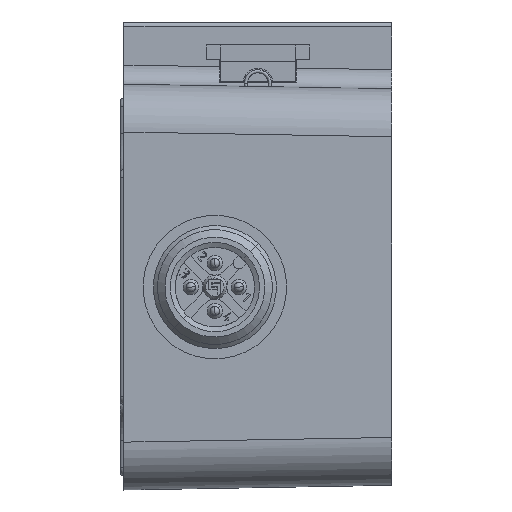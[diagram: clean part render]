
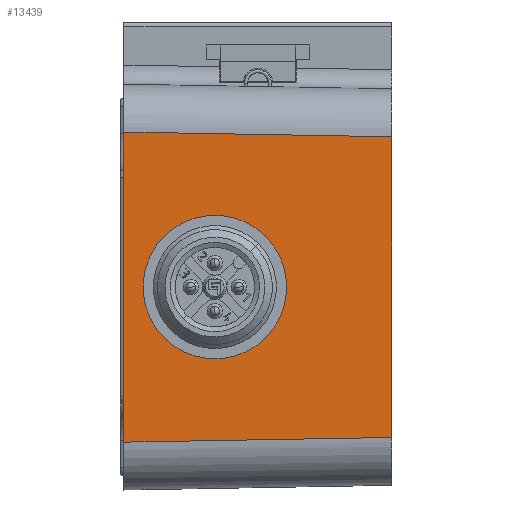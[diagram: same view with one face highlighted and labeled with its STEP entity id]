
A CAD part, left-side view. The second image highlights one B-rep face of the part: STEP entity #13439.
In plain terms, the highlighted planar face has unit normal (-1, 0, 0).
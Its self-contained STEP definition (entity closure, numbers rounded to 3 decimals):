
#503=CARTESIAN_POINT('',(-42.5,-14.,
-15.71));
#1165=CARTESIAN_POINT('',(-42.5,14.,16.199));
#1170=DIRECTION('',(0.,0.,-1.));
#1171=VECTOR('',#1170,32.398);
#1172=CARTESIAN_POINT('',(-42.5,14.,16.199));
#1173=LINE('',#1172,#1171);
#1600=DIRECTION('',(0.,1.,-0.017));
#1601=VECTOR('',#1600,28.004);
#1602=CARTESIAN_POINT('',(-42.5,-14.,
-15.71));
#1603=LINE('',#1602,#1601);
#1607=DIRECTION('',(0.,-1.,-0.017));
#1608=VECTOR('',#1607,28.004);
#1609=CARTESIAN_POINT('',(-42.5,14.,16.199));
#1610=LINE('',#1609,#1608);
#1614=DIRECTION('',(0.,0.,-1.));
#1615=VECTOR('',#1614,31.421);
#1616=CARTESIAN_POINT('',(-42.5,-14.,15.71));
#1617=LINE('',#1616,#1615);
#1621=CARTESIAN_POINT('',(-42.5,4.5,0.));
#1622=DIRECTION('',(-1.,0.,0.));
#1623=DIRECTION('',(0.,-0.571,0.821));
#1624=AXIS2_PLACEMENT_3D('',#1621,#1622,#1623);
#1629=CARTESIAN_POINT('',(-42.5,4.5,0.));
#1630=DIRECTION('',(-1.,0.,0.));
#1631=DIRECTION('',(0.,0.,1.));
#1632=AXIS2_PLACEMENT_3D('',#1629,#1630,#1631);
#1637=CARTESIAN_POINT('',(-42.5,4.5,0.));
#1638=DIRECTION('',(-1.,0.,0.));
#1639=DIRECTION('',(0.,0.,-1.));
#1640=AXIS2_PLACEMENT_3D('',#1637,#1638,#1639);
#1645=CARTESIAN_POINT('',(-42.5,-0.733,5.233));
#1646=DIRECTION('',(1.,0.,0.));
#1647=DIRECTION('',(0.,0.147,-0.989));
#1648=AXIS2_PLACEMENT_3D('',#1645,#1646,#1647);
#11872=VERTEX_POINT('',#503);
#11873=CARTESIAN_POINT('',(-42.5,-14.,15.71));
#11874=VERTEX_POINT('',#11873);
#12051=VERTEX_POINT('',#1165);
#12052=CARTESIAN_POINT('',(-42.5,14.,
-16.199));
#12053=VERTEX_POINT('',#12052);
#12225=CARTESIAN_POINT('',(-42.5,4.5,-6.05));
#12226=CARTESIAN_POINT('',(-42.5,-0.468,3.452));
#12227=VERTEX_POINT('',#12225);
#12228=VERTEX_POINT('',#12226);
#12229=CARTESIAN_POINT('',(-42.5,4.5,6.05));
#12230=VERTEX_POINT('',#12229);
#12231=CARTESIAN_POINT('',(-42.5,1.048,4.968));
#12232=VERTEX_POINT('',#12231);
#13417=CARTESIAN_POINT('',(-42.5,-14.,-21.2));
#13418=DIRECTION('',(-1.,0.,0.));
#13419=DIRECTION('',(0.,0.,1.));
#13420=AXIS2_PLACEMENT_3D('',#13417,#13418,#13419);
#13421=PLANE('',#13420);
#13423=ORIENTED_EDGE('',*,*,#13422,.T.);
#13424=ORIENTED_EDGE('',*,*,#13216,.F.);
#13425=ORIENTED_EDGE('',*,*,#13410,.T.);
#13426=ORIENTED_EDGE('',*,*,#12901,.T.);
#13427=EDGE_LOOP('',(#13423,#13424,#13425,#13426));
#13428=FACE_OUTER_BOUND('',#13427,.F.);
#13430=ORIENTED_EDGE('',*,*,#13429,.T.);
#13432=ORIENTED_EDGE('',*,*,#13431,.T.);
#13434=ORIENTED_EDGE('',*,*,#13433,.T.);
#13436=ORIENTED_EDGE('',*,*,#13435,.T.);
#13437=EDGE_LOOP('',(#13430,#13432,#13434,#13436));
#13438=FACE_BOUND('',#13437,.F.);
#1625=CIRCLE('',#1624,6.05);
#1633=CIRCLE('',#1632,6.05);
#1641=CIRCLE('',#1640,6.05);
#1649=CIRCLE('',#1648,1.8);
#12901=EDGE_CURVE('',#11874,#11872,#1617,.T.);
#13216=EDGE_CURVE('',#12051,#12053,#1173,.T.);
#13410=EDGE_CURVE('',#12051,#11874,#1610,.T.);
#13422=EDGE_CURVE('',#11872,#12053,#1603,.T.);
#13429=EDGE_CURVE('',#12232,#12230,#1625,.T.);
#13431=EDGE_CURVE('',#12230,#12227,#1633,.T.);
#13433=EDGE_CURVE('',#12227,#12228,#1641,.T.);
#13435=EDGE_CURVE('',#12228,#12232,#1649,.T.);
#13439=ADVANCED_FACE('',(#13428,#13438),#13421,.T.);
